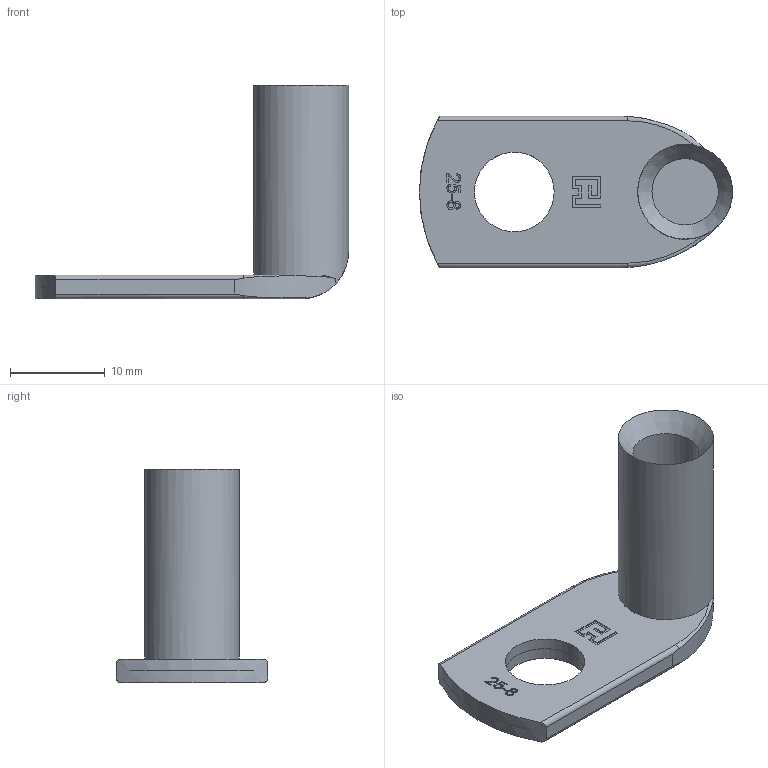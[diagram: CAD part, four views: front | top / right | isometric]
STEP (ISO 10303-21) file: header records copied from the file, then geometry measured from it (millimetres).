
FILE_DESCRIPTION(('FreeCAD Model'),'2;1');
FILE_NAME('Open CASCADE Shape Model','2022-02-03T15:30:31',( 'Frederic Herrmann'),('KEB Automation KG'), 'Open CASCADE STEP processor 7.5','FreeCAD','Unknown');
FILE_SCHEMA(('CONFIG_CONTROL_DESIGN','SHAPE_APPEARANCE_LAYER_MIM'));
Length unit declared in the file: millimetre
Products named in the file (1): 44R8 M8
Bounding box: 33 x 16 x 22.5 mm (x, y, z)
Volume: 1957.7 mm3; surface area: 2291.5 mm2
Topology: 1 solids, 1 shells, 139 faces, 389 edges, 260 vertices
Faces by surface type: extrusion 66, plane 55, cylinder 13, torus 4, cone 1
Full cylindrical faces by diameter (mm): 7 x1, 8.4 x2, 10 x1
Entity records: 12155 total; most frequent: CARTESIAN_POINT 5186, DIRECTION 918, ORIENTED_EDGE 778, PCURVE 778, DEFINITIONAL_REPRESENTATION 778, VECTOR 696, LINE 630, B_SPLINE_CURVE_WITH_KNOTS 555
